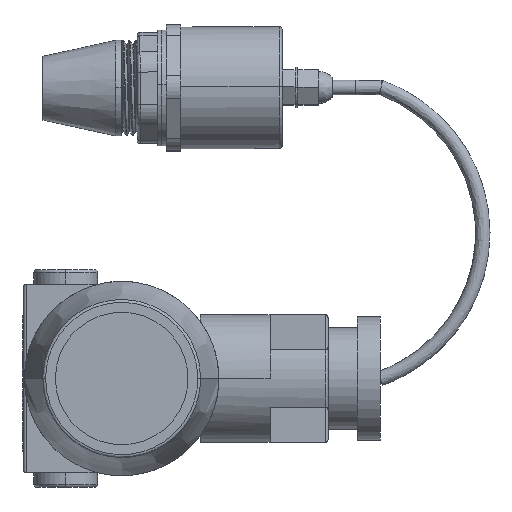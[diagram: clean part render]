
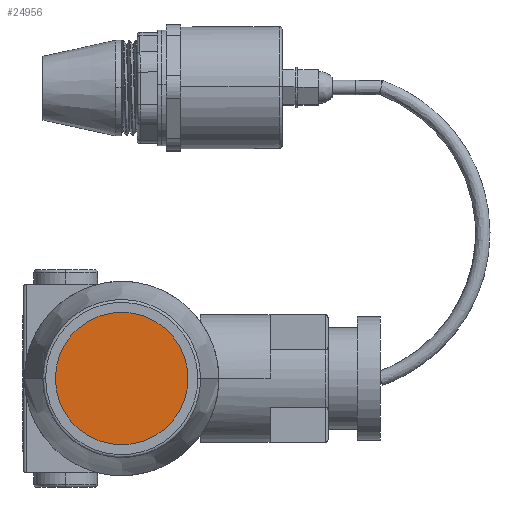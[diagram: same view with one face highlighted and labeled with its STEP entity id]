
A CAD part, left-side view. The second image highlights one B-rep face of the part: STEP entity #24956.
In plain terms, the highlighted planar face has unit normal (-1, 0, 0).
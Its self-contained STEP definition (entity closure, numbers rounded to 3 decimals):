
#8890=CARTESIAN_POINT('',(-69.5,71.141,0.));
#8891=DIRECTION('',(-1.,0.,0.));
#8892=DIRECTION('',(0.,-1.,0.));
#8893=AXIS2_PLACEMENT_3D('',#8890,#8891,#8892);
#8895=CARTESIAN_POINT('',(-69.5,71.141,0.));
#8896=DIRECTION('',(-1.,0.,0.));
#8897=DIRECTION('',(0.,1.,0.));
#8898=AXIS2_PLACEMENT_3D('',#8895,#8896,#8897);
#9145=CARTESIAN_POINT('',(-69.5,48.295,0.));
#9146=CARTESIAN_POINT('',(-69.5,93.987,0.));
#9147=VERTEX_POINT('',#9145);
#9148=VERTEX_POINT('',#9146);
#24947=CARTESIAN_POINT('',(-69.5,0.,0.));
#24948=DIRECTION('',(-1.,0.,0.));
#24949=DIRECTION('',(0.,-1.,0.));
#24950=AXIS2_PLACEMENT_3D('',#24947,#24948,#24949);
#24951=PLANE('',#24950);
#24952=ORIENTED_EDGE('',*,*,#24927,.F.);
#24953=ORIENTED_EDGE('',*,*,#24941,.F.);
#24954=EDGE_LOOP('',(#24952,#24953));
#24955=FACE_OUTER_BOUND('',#24954,.F.);
#24956=ADVANCED_FACE('',(#24955),#24951,.T.);
#8894=CIRCLE('',#8893,22.846);
#8899=CIRCLE('',#8898,22.846);
#24927=EDGE_CURVE('',#9147,#9148,#8894,.T.);
#24941=EDGE_CURVE('',#9148,#9147,#8899,.T.);
